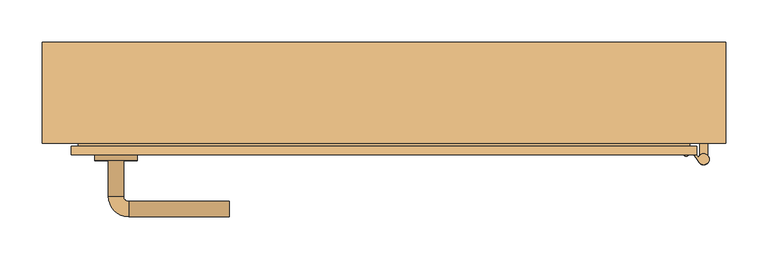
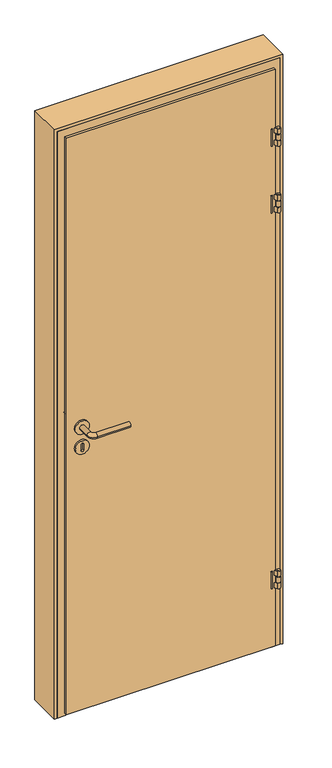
"""IFC4 building model written with IfcOpenShell, lengths in millimetres: door geometry, JW_Interior_Door_Steady_411_Single_1.0 : 790 x 1890 mm - M8 x M19."""

from ifc_helpers import new_model, si_unit, point, frame, frame_2d, origin, place, context, project, spatial, polyline, circle_curve, ellipse_curve, trimmed, segment, composite_curve, outline, extrude, faceted_brep, source, transform, mapped, element, save
from ifc_brep_helpers import plane_surface, cylinder_surface, revolved_surface, advanced_brep


def door_6d154dac(model_context):
    return source(origin(), model_context, "Body", "SolidModel", [
        advanced_brep(
        [(372.6872752, -76.5978645, 1955.5), (367.824598, -69.6532419, 1955.5), (363.3666753, -68.8671898, 1955.5), (358.4507117, -72.3093846, 1955.5), (357.3369261, -72.1129941, 1955.5), (351.5497082, -64.705693, 1955.5), (348.4714009, -60.7656393, 1955.5), (346.501374, -62.304793, 1955.5), (349.5796813, -66.2448467, 1955.5), (355.3284264, -73.6029049, 1955.5), (359.8029699, -74.3918876, 1955.5), (364.7031605, -70.9607372, 1955.5), (365.8301085, -71.1594486, 1955.5), (373.5783674, -82.2251091, 1955.5), (372.6872752, -76.5978645, 1890.5), (373.5783674, -82.2251091, 1890.5), (365.8301085, -71.1594486, 1890.5), (364.7031605, -70.9607372, 1890.5), (359.8029699, -74.3918876, 1890.5), (355.3284264, -73.6029049, 1890.5), (349.5796813, -66.2448467, 1890.5), (346.501374, -62.304793, 1890.5), (348.4714009, -60.7656393, 1890.5), (351.5497082, -64.705693, 1890.5), (357.3369261, -72.1129941, 1890.5), (358.4507117, -72.3093846, 1890.5), (363.3666753, -68.8671898, 1890.5), (367.824598, -69.6532419, 1890.5), (373.5783674, -82.2251091, 1936.0), (372.6872752, -76.5978645, 1936.0), (372.6872752, -76.5978645, 1910.0), (373.5783674, -82.2251091, 1910.0), (367.824598, -69.6532419, 1936.0), (367.824598, -69.6532419, 1910.0), (363.3666753, -68.8671898, 1936.0), (363.3666753, -68.8671898, 1910.0), (361.0722318, -70.4737764, 1936.0), (361.0722318, -70.4737764, 1910.0), (342.3147861, -52.8855317, 1900.5), (342.3147861, -52.8855317, 1945.5), (340.3447592, -54.4246854, 1900.5), (340.3447592, -54.4246854, 1945.5), (364.7031605, -70.9607372, 1910.0), (362.4955675, -72.5065104, 1910.0), (362.4955675, -72.5065104, 1936.0), (364.7031605, -70.9607372, 1936.0), (365.8301085, -71.1594486, 1936.0), (365.8301085, -71.1594486, 1910.0)],
        [
            (0, 1),
            (1, 2, circle_curve(frame((365.2026106, -71.4891772, 1955.5), z_axis=(0.0, 0.0, 1.0), x_axis=(-0.5735764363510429, 0.819152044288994, 0.0)), 3.2008556)),
            (2, 3),
            (3, 4, circle_curve(frame((357.9920141, -71.6542966, 1955.5), z_axis=(0.0, 0.0, -1.0), x_axis=(-0.5735764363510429, 0.819152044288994, 0.0)), 0.7997148)),
            (4, 5),
            (5, 6),
            (6, 7),
            (7, 8),
            (8, 9),
            (9, 10, circle_curve(frame((357.9601895, -71.7601245, 1955.5), z_axis=(0.0, 0.0, 1.0), x_axis=(-0.5735764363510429, 0.819152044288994, 0.0)), 3.2127895)),
            (10, 11),
            (11, 12, circle_curve(frame((365.1672788, -71.6235669, 1955.5), z_axis=(0.0, 0.0, -1.0), x_axis=(-0.5735764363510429, 0.819152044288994, 0.0)), 0.8091657)),
            (12, 13),
            (13, 0, circle_curve(frame((378.9011559, -78.4980525, 1955.5), z_axis=(0.0, 0.0, 1.0), x_axis=(-0.5735764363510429, 0.819152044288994, 0.0)), 6.4979249)),
            (14, 15, circle_curve(frame((378.9011559, -78.4980525, 1890.5), z_axis=(0.0, 0.0, -1.0), x_axis=(-0.5735764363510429, 0.819152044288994, 0.0)), 6.4979249)),
            (15, 16),
            (16, 17, circle_curve(frame((365.1672788, -71.6235669, 1890.5), z_axis=(0.0, 0.0, 1.0), x_axis=(-0.5735764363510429, 0.819152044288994, 0.0)), 0.8091657)),
            (17, 18),
            (18, 19, circle_curve(frame((357.9601895, -71.7601245, 1890.5), z_axis=(0.0, 0.0, -1.0), x_axis=(-0.5735764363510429, 0.819152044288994, 0.0)), 3.2127895)),
            (19, 20),
            (20, 21),
            (21, 22),
            (22, 23),
            (23, 24),
            (24, 25, circle_curve(frame((357.9920141, -71.6542966, 1890.5), z_axis=(0.0, 0.0, 1.0), x_axis=(-0.5735764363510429, 0.819152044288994, 0.0)), 0.7997148)),
            (25, 26),
            (26, 27, circle_curve(frame((365.2026106, -71.4891772, 1890.5), z_axis=(0.0, 0.0, -1.0), x_axis=(-0.5735764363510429, 0.819152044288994, 0.0)), 3.2008556)),
            (27, 14),
            (13, 28),
            (28, 29, circle_curve(frame((378.9011559, -78.4980525, 1936.0), z_axis=(0.0, 0.0, 1.0), x_axis=(-0.5735764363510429, 0.819152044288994, 0.0)), 6.4979249)),
            (29, 0),
            (14, 30),
            (30, 31, circle_curve(frame((378.9011559, -78.4980525, 1910.0), z_axis=(0.0, 0.0, -1.0), x_axis=(-0.5735764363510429, 0.819152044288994, 0.0)), 6.4979249)),
            (31, 15),
            (29, 32),
            (32, 1),
            (27, 33),
            (33, 30),
            (32, 34, circle_curve(frame((365.2026106, -71.4891772, 1936.0), z_axis=(0.0, 0.0, 1.0), x_axis=(-0.5735764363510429, 0.819152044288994, 0.0)), 3.2008556)),
            (34, 2),
            (26, 35),
            (35, 33, circle_curve(frame((365.2026106, -71.4891772, 1910.0), z_axis=(0.0, 0.0, -1.0), x_axis=(-0.5735764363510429, 0.819152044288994, 0.0)), 3.2008556)),
            (34, 36),
            (36, 37),
            (37, 35),
            (25, 3),
            (24, 4),
            (22, 38, circle_curve(frame((348.4714009, -60.7656393, 1900.5), z_axis=(0.7880107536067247, 0.6156614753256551, 0.0), x_axis=(0.615661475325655, -0.7880107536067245, 0.0)), 10.0)),
            (38, 39),
            (39, 6, circle_curve(frame((348.4714009, -60.7656393, 1945.5), z_axis=(0.7880107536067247, 0.6156614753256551, 0.0), x_axis=(0.615661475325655, -0.7880107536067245, 0.0)), 10.0)),
            (38, 40),
            (40, 41),
            (41, 39),
            (19, 9),
            (7, 41, circle_curve(frame((346.501374, -62.304793, 1945.5), z_axis=(-0.7880107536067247, -0.6156614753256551, 0.0), x_axis=(0.615661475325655, -0.7880107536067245, 0.0)), 10.0)),
            (40, 21, circle_curve(frame((346.501374, -62.304793, 1900.5), z_axis=(-0.7880107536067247, -0.6156614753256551, 0.0), x_axis=(0.615661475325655, -0.7880107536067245, 0.0)), 10.0)),
            (18, 10),
            (17, 42),
            (42, 43),
            (43, 44),
            (44, 45),
            (45, 11),
            (45, 46, circle_curve(frame((365.1672788, -71.6235669, 1936.0), z_axis=(0.0, 0.0, -1.0), x_axis=(-0.5735764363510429, 0.819152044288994, 0.0)), 0.8091657)),
            (46, 12),
            (16, 47),
            (47, 42, circle_curve(frame((365.1672788, -71.6235669, 1910.0), z_axis=(0.0, 0.0, 1.0), x_axis=(-0.5735764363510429, 0.819152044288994, 0.0)), 0.8091657)),
            (46, 28),
            (31, 47),
            (44, 36),
            (37, 43),
        ],
        [
            plane_surface(frame((367.824598, -69.6532419, 1955.5), z_axis=(0.0, 0.0, 1.0000000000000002), x_axis=(-0.5735764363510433, 0.8191520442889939, 0.0))),
            plane_surface(frame((367.824598, -69.6532419, 1890.5), z_axis=(0.0, 0.0, -1.0000000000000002), x_axis=(0.5735764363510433, -0.8191520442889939, 0.0))),
            cylinder_surface(frame((378.9011559, -78.4980525, 1890.5), z_axis=(0.0, 0.0, 1.0), x_axis=(-0.5735764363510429, 0.819152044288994, 0.0)), 6.4979249),
            plane_surface(frame((372.6872752, -76.5978645, 1955.5), z_axis=(0.8191520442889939, 0.5735764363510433, 0.0), x_axis=(0.0, 0.0, -1.0))),
            cylinder_surface(frame((365.2026106, -71.4891772, 1890.5), z_axis=(0.0, 0.0, 1.0), x_axis=(-0.5735764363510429, 0.819152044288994, 0.0)), 3.2008556),
            plane_surface(frame((363.3666753, -68.8671898, 1955.5), z_axis=(-0.573576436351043, 0.819152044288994, 0.0), x_axis=(0.0, 0.0, -1.0))),
            revolved_surface(polyline([(357.5333165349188, -70.99920858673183, 1890.5), (357.5333165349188, -70.99920858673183, 1955.5)]), (357.9920141, -71.6542966, 1890.5), (0.0, 0.0, -1.0)),
            plane_surface(frame((357.3369261, -72.1129941, 1955.5), z_axis=(0.7880107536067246, 0.615661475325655, 0.0), x_axis=(0.0, 0.0, -1.0))),
            plane_surface(frame((342.3147861, -52.8855317, 1955.5), z_axis=(-0.6156614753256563, 0.7880107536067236, 0.0), x_axis=(0.0, 0.0, -1.0))),
            plane_surface(frame((340.3447592, -54.4246854, 1955.5), z_axis=(-0.7880107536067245, -0.6156614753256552, 0.0), x_axis=(0.0, 0.0, -1.0))),
            cylinder_surface(frame((357.9601895, -71.7601245, 1890.5), z_axis=(0.0, 0.0, 1.0), x_axis=(-0.5735764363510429, 0.819152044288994, 0.0)), 3.2127895),
            plane_surface(frame((359.8029699, -74.3918876, 1955.5), z_axis=(0.5735764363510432, -0.8191520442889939, 0.0), x_axis=(0.0, 0.0, -1.0))),
            revolved_surface(polyline([(364.70316042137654, -70.96073716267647, 1936.0), (364.70316042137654, -70.96073716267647, 1955.5)]), (365.1672788, -71.6235669, 1890.5), (0.0, 0.0, -1.0)),
            revolved_surface(polyline([(364.70316042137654, -70.96073716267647, 1890.5), (364.70316042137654, -70.96073716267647, 1910.0)]), (365.1672788, -71.6235669, 1890.5), (0.0, 0.0, -1.0)),
            plane_surface(frame((365.8301085, -71.1594486, 1955.5), z_axis=(-0.819152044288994, -0.573576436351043, 0.0), x_axis=(0.0, 0.0, -1.0))),
            plane_surface(frame((390.8814134, -82.3872146, 1936.0), z_axis=(0.0, 0.0, -1.0000000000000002), x_axis=(0.8191520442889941, 0.5735764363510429, 0.0))),
            plane_surface(frame((390.8814134, -82.3872146, 1910.0), z_axis=(0.0, 0.0, 1.0000000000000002), x_axis=(-0.8191520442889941, -0.5735764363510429, 0.0))),
            plane_surface(frame((359.2693443, -67.8989861, 1936.0), z_axis=(0.819152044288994, 0.573576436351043, 0.0), x_axis=(0.0, 0.0, -1.0))),
            cylinder_surface(frame((352.4114546, -57.6873319, 1900.5), z_axis=(0.7880107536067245, 0.615661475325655, 0.0), x_axis=(0.615661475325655, -0.7880107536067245, 0.0)), 10.0),
            cylinder_surface(frame((352.4114546, -57.6873319, 1945.5), z_axis=(0.7880107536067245, 0.615661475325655, 0.0), x_axis=(0.615661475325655, -0.7880107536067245, 0.0)), 10.0),
        ],
        [
            (0, [[1, 2, 3, 4, 5, 6, 7, 8, 9, 10, 11, 12, 13, 14]]),
            (1, [[15, 16, 17, 18, 19, 20, 21, 22, 23, 24, 25, 26, 27, 28]]),
            (2, [[-14, 29, 30, 31]]),
            (2, [[-15, 32, 33, 34]]),
            (3, [[-1, -31, 35, 36]]),
            (3, [[-28, 37, 38, -32]]),
            (4, [[-2, -36, 39, 40]]),
            (4, [[-27, 41, 42, -37]]),
            (5, [[-3, -40, 43, 44, 45, -41, -26, 46]]),
            (6, [[-4, -46, -25, 47]]),
            (7, [[-47, -24, -23, 48, 49, 50, -6, -5]]),
            (8, [[-49, 51, 52, 53]]),
            (9, [[54, -9, -8, 55, -52, 56, -21, -20]]),
            (10, [[-10, -54, -19, 57]]),
            (11, [[-11, -57, -18, 58, 59, 60, 61, 62]]),
            (12, [[-12, -62, 63, 64]]),
            (13, [[-17, 65, 66, -58]]),
            (14, [[-13, -64, 67, -29]]),
            (14, [[-16, -34, 68, -65]]),
            (15, [[69, -43, -39, -35, -30, -67, -63, -61]]),
            (16, [[70, -59, -66, -68, -33, -38, -42, -45]]),
            (17, [[-69, -60, -70, -44]]),
            (18, [[-22, -56, -51, -48]]),
            (19, [[-7, -50, -53, -55]]),
        ],
    ),
        extrude(outline(composite_curve([segment(trimmed(circle_curve(frame_2d((378.9, -78.5)), 3.75), [point((375.15, -78.5))], [point((382.65, -78.5))], False, "CARTESIAN"), True, "CONTINUOUS"), segment(trimmed(circle_curve(frame_2d((378.9, -78.5)), 3.75), [point((382.65, -78.5))], [point((375.15, -78.5))], False, "CARTESIAN"), True, "CONTINUOUS")], self_intersect=False)), frame((0.0, 0.0, 1890.5), z_axis=(0.0, 0.0, 1.0), x_axis=(1.0, 0.0, 0.0)), (0.0, 0.0, 1.0), 65.0),
        extrude(outline(composite_curve([segment(trimmed(circle_curve(frame_2d((378.9, -78.5)), 6.5), [point((383.9, -74.3466881))], [point((373.9, -74.3466881))], False, "CARTESIAN"), True, "CONTINUOUS"), segment(polyline([(373.9, -74.3466881), (373.9, -60.0), (383.9, -60.0), (383.9, -74.3466881)]), True, "CONTINUOUS")], self_intersect=False)), frame((0.0, 0.0, 1913.0), z_axis=(0.0, 0.0, 1.0), x_axis=(1.0, 0.0, 0.0)), (0.0, 0.0, 1.0), 20.0),
        advanced_brep(
        [(372.6872752, -76.5978645, 1705.5), (367.824598, -69.6532419, 1705.5), (363.3666753, -68.8671898, 1705.5), (358.4507117, -72.3093846, 1705.5), (357.3369261, -72.1129941, 1705.5), (351.5497082, -64.705693, 1705.5), (348.4714009, -60.7656393, 1705.5), (346.501374, -62.304793, 1705.5), (349.5796813, -66.2448467, 1705.5), (355.3284264, -73.6029049, 1705.5), (359.8029699, -74.3918876, 1705.5), (364.7031605, -70.9607372, 1705.5), (365.8301085, -71.1594486, 1705.5), (373.5783674, -82.2251091, 1705.5), (372.6872752, -76.5978645, 1640.5), (373.5783674, -82.2251091, 1640.5), (365.8301085, -71.1594486, 1640.5), (364.7031605, -70.9607372, 1640.5), (359.8029699, -74.3918876, 1640.5), (355.3284264, -73.6029049, 1640.5), (349.5796813, -66.2448467, 1640.5), (346.501374, -62.304793, 1640.5), (348.4714009, -60.7656393, 1640.5), (351.5497082, -64.705693, 1640.5), (357.3369261, -72.1129941, 1640.5), (358.4507117, -72.3093846, 1640.5), (363.3666753, -68.8671898, 1640.5), (367.824598, -69.6532419, 1640.5), (373.5783674, -82.2251091, 1686.0), (372.6872752, -76.5978645, 1686.0), (372.6872752, -76.5978645, 1660.0), (373.5783674, -82.2251091, 1660.0), (367.824598, -69.6532419, 1686.0), (367.824598, -69.6532419, 1660.0), (363.3666753, -68.8671898, 1686.0), (363.3666753, -68.8671898, 1660.0), (361.0722318, -70.4737764, 1686.0), (361.0722318, -70.4737764, 1660.0), (342.3147861, -52.8855317, 1650.5), (342.3147861, -52.8855317, 1695.5), (340.3447592, -54.4246854, 1650.5), (340.3447592, -54.4246854, 1695.5), (364.7031605, -70.9607372, 1660.0), (362.4955675, -72.5065104, 1660.0), (362.4955675, -72.5065104, 1686.0), (364.7031605, -70.9607372, 1686.0), (365.8301085, -71.1594486, 1686.0), (365.8301085, -71.1594486, 1660.0)],
        [
            (0, 1),
            (1, 2, circle_curve(frame((365.2026106, -71.4891772, 1705.5), z_axis=(0.0, 0.0, 1.0), x_axis=(-0.5735764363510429, 0.819152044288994, 0.0)), 3.2008556)),
            (2, 3),
            (3, 4, circle_curve(frame((357.9920141, -71.6542966, 1705.5), z_axis=(0.0, 0.0, -1.0), x_axis=(-0.5735764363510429, 0.819152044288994, 0.0)), 0.7997148)),
            (4, 5),
            (5, 6),
            (6, 7),
            (7, 8),
            (8, 9),
            (9, 10, circle_curve(frame((357.9601895, -71.7601245, 1705.5), z_axis=(0.0, 0.0, 1.0), x_axis=(-0.5735764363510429, 0.819152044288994, 0.0)), 3.2127895)),
            (10, 11),
            (11, 12, circle_curve(frame((365.1672788, -71.6235669, 1705.5), z_axis=(0.0, 0.0, -1.0), x_axis=(-0.5735764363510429, 0.819152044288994, 0.0)), 0.8091657)),
            (12, 13),
            (13, 0, circle_curve(frame((378.9011559, -78.4980525, 1705.5), z_axis=(0.0, 0.0, 1.0), x_axis=(-0.5735764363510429, 0.819152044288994, 0.0)), 6.4979249)),
            (14, 15, circle_curve(frame((378.9011559, -78.4980525, 1640.5), z_axis=(0.0, 0.0, -1.0), x_axis=(-0.5735764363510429, 0.819152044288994, 0.0)), 6.4979249)),
            (15, 16),
            (16, 17, circle_curve(frame((365.1672788, -71.6235669, 1640.5), z_axis=(0.0, 0.0, 1.0), x_axis=(-0.5735764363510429, 0.819152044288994, 0.0)), 0.8091657)),
            (17, 18),
            (18, 19, circle_curve(frame((357.9601895, -71.7601245, 1640.5), z_axis=(0.0, 0.0, -1.0), x_axis=(-0.5735764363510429, 0.819152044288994, 0.0)), 3.2127895)),
            (19, 20),
            (20, 21),
            (21, 22),
            (22, 23),
            (23, 24),
            (24, 25, circle_curve(frame((357.9920141, -71.6542966, 1640.5), z_axis=(0.0, 0.0, 1.0), x_axis=(-0.5735764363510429, 0.819152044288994, 0.0)), 0.7997148)),
            (25, 26),
            (26, 27, circle_curve(frame((365.2026106, -71.4891772, 1640.5), z_axis=(0.0, 0.0, -1.0), x_axis=(-0.5735764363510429, 0.819152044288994, 0.0)), 3.2008556)),
            (27, 14),
            (13, 28),
            (28, 29, circle_curve(frame((378.9011559, -78.4980525, 1686.0), z_axis=(0.0, 0.0, 1.0), x_axis=(-0.5735764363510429, 0.819152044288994, 0.0)), 6.4979249)),
            (29, 0),
            (14, 30),
            (30, 31, circle_curve(frame((378.9011559, -78.4980525, 1660.0), z_axis=(0.0, 0.0, -1.0), x_axis=(-0.5735764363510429, 0.819152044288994, 0.0)), 6.4979249)),
            (31, 15),
            (29, 32),
            (32, 1),
            (27, 33),
            (33, 30),
            (32, 34, circle_curve(frame((365.2026106, -71.4891772, 1686.0), z_axis=(0.0, 0.0, 1.0), x_axis=(-0.5735764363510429, 0.819152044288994, 0.0)), 3.2008556)),
            (34, 2),
            (26, 35),
            (35, 33, circle_curve(frame((365.2026106, -71.4891772, 1660.0), z_axis=(0.0, 0.0, -1.0), x_axis=(-0.5735764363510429, 0.819152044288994, 0.0)), 3.2008556)),
            (34, 36),
            (36, 37),
            (37, 35),
            (25, 3),
            (24, 4),
            (22, 38, circle_curve(frame((348.4714009, -60.7656393, 1650.5), z_axis=(0.7880107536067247, 0.6156614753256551, 0.0), x_axis=(0.615661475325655, -0.7880107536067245, 0.0)), 10.0)),
            (38, 39),
            (39, 6, circle_curve(frame((348.4714009, -60.7656393, 1695.5), z_axis=(0.7880107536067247, 0.6156614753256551, 0.0), x_axis=(0.615661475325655, -0.7880107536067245, 0.0)), 10.0)),
            (38, 40),
            (40, 41),
            (41, 39),
            (19, 9),
            (7, 41, circle_curve(frame((346.501374, -62.304793, 1695.5), z_axis=(-0.7880107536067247, -0.6156614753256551, 0.0), x_axis=(0.615661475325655, -0.7880107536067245, 0.0)), 10.0)),
            (40, 21, circle_curve(frame((346.501374, -62.304793, 1650.5), z_axis=(-0.7880107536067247, -0.6156614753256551, 0.0), x_axis=(0.615661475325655, -0.7880107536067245, 0.0)), 10.0)),
            (18, 10),
            (17, 42),
            (42, 43),
            (43, 44),
            (44, 45),
            (45, 11),
            (45, 46, circle_curve(frame((365.1672788, -71.6235669, 1686.0), z_axis=(0.0, 0.0, -1.0), x_axis=(-0.5735764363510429, 0.819152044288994, 0.0)), 0.8091657)),
            (46, 12),
            (16, 47),
            (47, 42, circle_curve(frame((365.1672788, -71.6235669, 1660.0), z_axis=(0.0, 0.0, 1.0), x_axis=(-0.5735764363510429, 0.819152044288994, 0.0)), 0.8091657)),
            (46, 28),
            (31, 47),
            (44, 36),
            (37, 43),
        ],
        [
            plane_surface(frame((367.824598, -69.6532419, 1705.5), z_axis=(0.0, 0.0, 1.0000000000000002), x_axis=(-0.5735764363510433, 0.8191520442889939, 0.0))),
            plane_surface(frame((367.824598, -69.6532419, 1640.5), z_axis=(0.0, 0.0, -1.0000000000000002), x_axis=(0.5735764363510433, -0.8191520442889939, 0.0))),
            cylinder_surface(frame((378.9011559, -78.4980525, 1640.5), z_axis=(0.0, 0.0, 1.0), x_axis=(-0.5735764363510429, 0.819152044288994, 0.0)), 6.4979249),
            plane_surface(frame((372.6872752, -76.5978645, 1705.5), z_axis=(0.8191520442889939, 0.5735764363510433, 0.0), x_axis=(0.0, 0.0, -1.0))),
            cylinder_surface(frame((365.2026106, -71.4891772, 1640.5), z_axis=(0.0, 0.0, 1.0), x_axis=(-0.5735764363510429, 0.819152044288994, 0.0)), 3.2008556),
            plane_surface(frame((363.3666753, -68.8671898, 1705.5), z_axis=(-0.573576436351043, 0.819152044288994, 0.0), x_axis=(0.0, 0.0, -1.0))),
            revolved_surface(polyline([(357.5333165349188, -70.99920858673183, 1640.5), (357.5333165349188, -70.99920858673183, 1705.5)]), (357.9920141, -71.6542966, 1640.5), (0.0, 0.0, -1.0)),
            plane_surface(frame((357.3369261, -72.1129941, 1705.5), z_axis=(0.7880107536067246, 0.615661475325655, 0.0), x_axis=(0.0, 0.0, -1.0))),
            plane_surface(frame((342.3147861, -52.8855317, 1705.5), z_axis=(-0.6156614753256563, 0.7880107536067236, 0.0), x_axis=(0.0, 0.0, -1.0))),
            plane_surface(frame((340.3447592, -54.4246854, 1705.5), z_axis=(-0.7880107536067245, -0.6156614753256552, 0.0), x_axis=(0.0, 0.0, -1.0))),
            cylinder_surface(frame((357.9601895, -71.7601245, 1640.5), z_axis=(0.0, 0.0, 1.0), x_axis=(-0.5735764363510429, 0.819152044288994, 0.0)), 3.2127895),
            plane_surface(frame((359.8029699, -74.3918876, 1705.5), z_axis=(0.5735764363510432, -0.8191520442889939, 0.0), x_axis=(0.0, 0.0, -1.0))),
            revolved_surface(polyline([(364.70316042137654, -70.96073716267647, 1686.0), (364.70316042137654, -70.96073716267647, 1705.5)]), (365.1672788, -71.6235669, 1640.5), (0.0, 0.0, -1.0)),
            revolved_surface(polyline([(364.70316042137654, -70.96073716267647, 1640.5), (364.70316042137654, -70.96073716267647, 1660.0)]), (365.1672788, -71.6235669, 1640.5), (0.0, 0.0, -1.0)),
            plane_surface(frame((365.8301085, -71.1594486, 1705.5), z_axis=(-0.819152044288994, -0.573576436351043, 0.0), x_axis=(0.0, 0.0, -1.0))),
            plane_surface(frame((390.8814134, -82.3872146, 1686.0), z_axis=(0.0, 0.0, -1.0000000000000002), x_axis=(0.8191520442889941, 0.5735764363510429, 0.0))),
            plane_surface(frame((390.8814134, -82.3872146, 1660.0), z_axis=(0.0, 0.0, 1.0000000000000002), x_axis=(-0.8191520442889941, -0.5735764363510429, 0.0))),
            plane_surface(frame((359.2693443, -67.8989861, 1686.0), z_axis=(0.819152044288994, 0.573576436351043, 0.0), x_axis=(0.0, 0.0, -1.0))),
            cylinder_surface(frame((352.4114546, -57.6873319, 1650.5), z_axis=(0.7880107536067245, 0.615661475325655, 0.0), x_axis=(0.615661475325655, -0.7880107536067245, 0.0)), 10.0),
            cylinder_surface(frame((352.4114546, -57.6873319, 1695.5), z_axis=(0.7880107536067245, 0.615661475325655, 0.0), x_axis=(0.615661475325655, -0.7880107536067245, 0.0)), 10.0),
        ],
        [
            (0, [[1, 2, 3, 4, 5, 6, 7, 8, 9, 10, 11, 12, 13, 14]]),
            (1, [[15, 16, 17, 18, 19, 20, 21, 22, 23, 24, 25, 26, 27, 28]]),
            (2, [[-14, 29, 30, 31]]),
            (2, [[-15, 32, 33, 34]]),
            (3, [[-1, -31, 35, 36]]),
            (3, [[-28, 37, 38, -32]]),
            (4, [[-2, -36, 39, 40]]),
            (4, [[-27, 41, 42, -37]]),
            (5, [[-3, -40, 43, 44, 45, -41, -26, 46]]),
            (6, [[-4, -46, -25, 47]]),
            (7, [[-47, -24, -23, 48, 49, 50, -6, -5]]),
            (8, [[-49, 51, 52, 53]]),
            (9, [[54, -9, -8, 55, -52, 56, -21, -20]]),
            (10, [[-10, -54, -19, 57]]),
            (11, [[-11, -57, -18, 58, 59, 60, 61, 62]]),
            (12, [[-12, -62, 63, 64]]),
            (13, [[-17, 65, 66, -58]]),
            (14, [[-13, -64, 67, -29]]),
            (14, [[-16, -34, 68, -65]]),
            (15, [[69, -43, -39, -35, -30, -67, -63, -61]]),
            (16, [[70, -59, -66, -68, -33, -38, -42, -45]]),
            (17, [[-69, -60, -70, -44]]),
            (18, [[-22, -56, -51, -48]]),
            (19, [[-7, -50, -53, -55]]),
        ],
    ),
        extrude(outline(composite_curve([segment(trimmed(circle_curve(frame_2d((378.9, -78.5)), 3.75), [point((375.15, -78.5))], [point((382.65, -78.5))], False, "CARTESIAN"), True, "CONTINUOUS"), segment(trimmed(circle_curve(frame_2d((378.9, -78.5)), 3.75), [point((382.65, -78.5))], [point((375.15, -78.5))], False, "CARTESIAN"), True, "CONTINUOUS")], self_intersect=False)), frame((0.0, 0.0, 1640.5), z_axis=(0.0, 0.0, 1.0), x_axis=(1.0, 0.0, 0.0)), (0.0, 0.0, 1.0), 65.0),
        extrude(outline(composite_curve([segment(trimmed(circle_curve(frame_2d((378.9, -78.5)), 6.5), [point((383.9, -74.3466881))], [point((373.9, -74.3466881))], False, "CARTESIAN"), True, "CONTINUOUS"), segment(polyline([(373.9, -74.3466881), (373.9, -60.0), (383.9, -60.0), (383.9, -74.3466881)]), True, "CONTINUOUS")], self_intersect=False)), frame((0.0, 0.0, 1663.0), z_axis=(0.0, 0.0, 1.0), x_axis=(1.0, 0.0, 0.0)), (0.0, 0.0, 1.0), 20.0),
        advanced_brep(
        [(372.6872752, -76.5978645, 295.5), (367.824598, -69.6532419, 295.5), (363.3666753, -68.8671898, 295.5), (358.4507117, -72.3093846, 295.5), (357.3369261, -72.1129941, 295.5), (351.5497082, -64.705693, 295.5), (348.4714009, -60.7656393, 295.5), (346.501374, -62.304793, 295.5), (349.5796813, -66.2448467, 295.5), (355.3284264, -73.6029049, 295.5), (359.8029699, -74.3918876, 295.5), (364.7031605, -70.9607372, 295.5), (365.8301085, -71.1594486, 295.5), (373.5783674, -82.2251091, 295.5), (372.6872752, -76.5978645, 230.5), (373.5783674, -82.2251091, 230.5), (365.8301085, -71.1594486, 230.5), (364.7031605, -70.9607372, 230.5), (359.8029699, -74.3918876, 230.5), (355.3284264, -73.6029049, 230.5), (349.5796813, -66.2448467, 230.5), (346.501374, -62.304793, 230.5), (348.4714009, -60.7656393, 230.5), (351.5497082, -64.705693, 230.5), (357.3369261, -72.1129941, 230.5), (358.4507117, -72.3093846, 230.5), (363.3666753, -68.8671898, 230.5), (367.824598, -69.6532419, 230.5), (373.5783674, -82.2251091, 276.0), (372.6872752, -76.5978645, 276.0), (372.6872752, -76.5978645, 250.0), (373.5783674, -82.2251091, 250.0), (367.824598, -69.6532419, 276.0), (367.824598, -69.6532419, 250.0), (363.3666753, -68.8671898, 276.0), (363.3666753, -68.8671898, 250.0), (361.0722318, -70.4737764, 276.0), (361.0722318, -70.4737764, 250.0), (342.3147861, -52.8855317, 240.5), (342.3147861, -52.8855317, 285.5), (340.3447592, -54.4246854, 240.5), (340.3447592, -54.4246854, 285.5), (364.7031605, -70.9607372, 250.0), (362.4955675, -72.5065104, 250.0), (362.4955675, -72.5065104, 276.0), (364.7031605, -70.9607372, 276.0), (365.8301085, -71.1594486, 276.0), (365.8301085, -71.1594486, 250.0)],
        [
            (0, 1),
            (1, 2, circle_curve(frame((365.2026106, -71.4891772, 295.5), z_axis=(0.0, 0.0, 1.0), x_axis=(-0.5735764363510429, 0.819152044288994, 0.0)), 3.2008556)),
            (2, 3),
            (3, 4, circle_curve(frame((357.9920141, -71.6542966, 295.5), z_axis=(0.0, 0.0, -1.0), x_axis=(-0.5735764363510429, 0.819152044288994, 0.0)), 0.7997148)),
            (4, 5),
            (5, 6),
            (6, 7),
            (7, 8),
            (8, 9),
            (9, 10, circle_curve(frame((357.9601895, -71.7601245, 295.5), z_axis=(0.0, 0.0, 1.0), x_axis=(-0.5735764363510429, 0.819152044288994, 0.0)), 3.2127895)),
            (10, 11),
            (11, 12, circle_curve(frame((365.1672788, -71.6235669, 295.5), z_axis=(0.0, 0.0, -1.0), x_axis=(-0.5735764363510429, 0.819152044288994, 0.0)), 0.8091657)),
            (12, 13),
            (13, 0, circle_curve(frame((378.9011559, -78.4980525, 295.5), z_axis=(0.0, 0.0, 1.0), x_axis=(-0.5735764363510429, 0.819152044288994, 0.0)), 6.4979249)),
            (14, 15, circle_curve(frame((378.9011559, -78.4980525, 230.5), z_axis=(0.0, 0.0, -1.0), x_axis=(-0.5735764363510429, 0.819152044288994, 0.0)), 6.4979249)),
            (15, 16),
            (16, 17, circle_curve(frame((365.1672788, -71.6235669, 230.5), z_axis=(0.0, 0.0, 1.0), x_axis=(-0.5735764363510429, 0.819152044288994, 0.0)), 0.8091657)),
            (17, 18),
            (18, 19, circle_curve(frame((357.9601895, -71.7601245, 230.5), z_axis=(0.0, 0.0, -1.0), x_axis=(-0.5735764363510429, 0.819152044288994, 0.0)), 3.2127895)),
            (19, 20),
            (20, 21),
            (21, 22),
            (22, 23),
            (23, 24),
            (24, 25, circle_curve(frame((357.9920141, -71.6542966, 230.5), z_axis=(0.0, 0.0, 1.0), x_axis=(-0.5735764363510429, 0.819152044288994, 0.0)), 0.7997148)),
            (25, 26),
            (26, 27, circle_curve(frame((365.2026106, -71.4891772, 230.5), z_axis=(0.0, 0.0, -1.0), x_axis=(-0.5735764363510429, 0.819152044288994, 0.0)), 3.2008556)),
            (27, 14),
            (13, 28),
            (28, 29, circle_curve(frame((378.9011559, -78.4980525, 276.0), z_axis=(0.0, 0.0, 1.0), x_axis=(-0.5735764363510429, 0.819152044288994, 0.0)), 6.4979249)),
            (29, 0),
            (14, 30),
            (30, 31, circle_curve(frame((378.9011559, -78.4980525, 250.0), z_axis=(0.0, 0.0, -1.0), x_axis=(-0.5735764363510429, 0.819152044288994, 0.0)), 6.4979249)),
            (31, 15),
            (29, 32),
            (32, 1),
            (27, 33),
            (33, 30),
            (32, 34, circle_curve(frame((365.2026106, -71.4891772, 276.0), z_axis=(0.0, 0.0, 1.0), x_axis=(-0.5735764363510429, 0.819152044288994, 0.0)), 3.2008556)),
            (34, 2),
            (26, 35),
            (35, 33, circle_curve(frame((365.2026106, -71.4891772, 250.0), z_axis=(0.0, 0.0, -1.0), x_axis=(-0.5735764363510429, 0.819152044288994, 0.0)), 3.2008556)),
            (34, 36),
            (36, 37),
            (37, 35),
            (25, 3),
            (24, 4),
            (22, 38, circle_curve(frame((348.4714009, -60.7656393, 240.5), z_axis=(0.7880107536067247, 0.6156614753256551, 0.0), x_axis=(0.615661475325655, -0.7880107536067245, 0.0)), 10.0)),
            (38, 39),
            (39, 6, circle_curve(frame((348.4714009, -60.7656393, 285.5), z_axis=(0.7880107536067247, 0.6156614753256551, 0.0), x_axis=(0.615661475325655, -0.7880107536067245, 0.0)), 10.0)),
            (38, 40),
            (40, 41),
            (41, 39),
            (19, 9),
            (7, 41, circle_curve(frame((346.501374, -62.304793, 285.5), z_axis=(-0.7880107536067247, -0.6156614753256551, 0.0), x_axis=(0.615661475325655, -0.7880107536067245, 0.0)), 10.0)),
            (40, 21, circle_curve(frame((346.501374, -62.304793, 240.5), z_axis=(-0.7880107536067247, -0.6156614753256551, 0.0), x_axis=(0.615661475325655, -0.7880107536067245, 0.0)), 10.0)),
            (18, 10),
            (17, 42),
            (42, 43),
            (43, 44),
            (44, 45),
            (45, 11),
            (45, 46, circle_curve(frame((365.1672788, -71.6235669, 276.0), z_axis=(0.0, 0.0, -1.0), x_axis=(-0.5735764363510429, 0.819152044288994, 0.0)), 0.8091657)),
            (46, 12),
            (16, 47),
            (47, 42, circle_curve(frame((365.1672788, -71.6235669, 250.0), z_axis=(0.0, 0.0, 1.0), x_axis=(-0.5735764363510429, 0.819152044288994, 0.0)), 0.8091657)),
            (46, 28),
            (31, 47),
            (44, 36),
            (37, 43),
        ],
        [
            plane_surface(frame((367.824598, -69.6532419, 295.5), z_axis=(0.0, 0.0, 1.0000000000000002), x_axis=(-0.5735764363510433, 0.8191520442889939, 0.0))),
            plane_surface(frame((367.824598, -69.6532419, 230.5), z_axis=(0.0, 0.0, -1.0000000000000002), x_axis=(0.5735764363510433, -0.8191520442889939, 0.0))),
            cylinder_surface(frame((378.9011559, -78.4980525, 230.5), z_axis=(0.0, 0.0, 1.0), x_axis=(-0.5735764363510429, 0.819152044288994, 0.0)), 6.4979249),
            plane_surface(frame((372.6872752, -76.5978645, 295.5), z_axis=(0.8191520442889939, 0.5735764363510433, 0.0), x_axis=(0.0, 0.0, -1.0))),
            cylinder_surface(frame((365.2026106, -71.4891772, 230.5), z_axis=(0.0, 0.0, 1.0), x_axis=(-0.5735764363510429, 0.819152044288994, 0.0)), 3.2008556),
            plane_surface(frame((363.3666753, -68.8671898, 295.5), z_axis=(-0.573576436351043, 0.819152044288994, 0.0), x_axis=(0.0, 0.0, -1.0))),
            revolved_surface(polyline([(357.5333165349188, -70.99920858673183, 230.5), (357.5333165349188, -70.99920858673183, 295.5)]), (357.9920141, -71.6542966, 230.5), (0.0, 0.0, -1.0)),
            plane_surface(frame((357.3369261, -72.1129941, 295.5), z_axis=(0.7880107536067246, 0.615661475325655, 0.0), x_axis=(0.0, 0.0, -1.0))),
            plane_surface(frame((342.3147861, -52.8855317, 295.5), z_axis=(-0.6156614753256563, 0.7880107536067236, 0.0), x_axis=(0.0, 0.0, -1.0))),
            plane_surface(frame((340.3447592, -54.4246854, 295.5), z_axis=(-0.7880107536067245, -0.6156614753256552, 0.0), x_axis=(0.0, 0.0, -1.0))),
            cylinder_surface(frame((357.9601895, -71.7601245, 230.5), z_axis=(0.0, 0.0, 1.0), x_axis=(-0.5735764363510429, 0.819152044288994, 0.0)), 3.2127895),
            plane_surface(frame((359.8029699, -74.3918876, 295.5), z_axis=(0.5735764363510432, -0.8191520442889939, 0.0), x_axis=(0.0, 0.0, -1.0))),
            revolved_surface(polyline([(364.70316042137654, -70.96073716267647, 276.0), (364.70316042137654, -70.96073716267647, 295.5)]), (365.1672788, -71.6235669, 230.5), (0.0, 0.0, -1.0)),
            revolved_surface(polyline([(364.70316042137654, -70.96073716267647, 230.5), (364.70316042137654, -70.96073716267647, 250.0)]), (365.1672788, -71.6235669, 230.5), (0.0, 0.0, -1.0)),
            plane_surface(frame((365.8301085, -71.1594486, 295.5), z_axis=(-0.819152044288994, -0.573576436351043, 0.0), x_axis=(0.0, 0.0, -1.0))),
            plane_surface(frame((390.8814134, -82.3872146, 276.0), z_axis=(0.0, 0.0, -1.0000000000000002), x_axis=(0.8191520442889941, 0.5735764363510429, 0.0))),
            plane_surface(frame((390.8814134, -82.3872146, 250.0), z_axis=(0.0, 0.0, 1.0000000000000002), x_axis=(-0.8191520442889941, -0.5735764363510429, 0.0))),
            plane_surface(frame((359.2693443, -67.8989861, 276.0), z_axis=(0.819152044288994, 0.573576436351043, 0.0), x_axis=(0.0, 0.0, -1.0))),
            cylinder_surface(frame((352.4114546, -57.6873319, 240.5), z_axis=(0.7880107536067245, 0.615661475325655, 0.0), x_axis=(0.615661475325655, -0.7880107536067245, 0.0)), 10.0),
            cylinder_surface(frame((352.4114546, -57.6873319, 285.5), z_axis=(0.7880107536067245, 0.615661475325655, 0.0), x_axis=(0.615661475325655, -0.7880107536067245, 0.0)), 10.0),
        ],
        [
            (0, [[1, 2, 3, 4, 5, 6, 7, 8, 9, 10, 11, 12, 13, 14]]),
            (1, [[15, 16, 17, 18, 19, 20, 21, 22, 23, 24, 25, 26, 27, 28]]),
            (2, [[-14, 29, 30, 31]]),
            (2, [[-15, 32, 33, 34]]),
            (3, [[-1, -31, 35, 36]]),
            (3, [[-28, 37, 38, -32]]),
            (4, [[-2, -36, 39, 40]]),
            (4, [[-27, 41, 42, -37]]),
            (5, [[-3, -40, 43, 44, 45, -41, -26, 46]]),
            (6, [[-4, -46, -25, 47]]),
            (7, [[-47, -24, -23, 48, 49, 50, -6, -5]]),
            (8, [[-49, 51, 52, 53]]),
            (9, [[54, -9, -8, 55, -52, 56, -21, -20]]),
            (10, [[-10, -54, -19, 57]]),
            (11, [[-11, -57, -18, 58, 59, 60, 61, 62]]),
            (12, [[-12, -62, 63, 64]]),
            (13, [[-17, 65, 66, -58]]),
            (14, [[-13, -64, 67, -29]]),
            (14, [[-16, -34, 68, -65]]),
            (15, [[69, -43, -39, -35, -30, -67, -63, -61]]),
            (16, [[70, -59, -66, -68, -33, -38, -42, -45]]),
            (17, [[-69, -60, -70, -44]]),
            (18, [[-22, -56, -51, -48]]),
            (19, [[-7, -50, -53, -55]]),
        ],
    ),
        extrude(outline(composite_curve([segment(trimmed(circle_curve(frame_2d((378.9, -78.5)), 3.75), [point((375.15, -78.5))], [point((382.65, -78.5))], False, "CARTESIAN"), True, "CONTINUOUS"), segment(trimmed(circle_curve(frame_2d((378.9, -78.5)), 3.75), [point((382.65, -78.5))], [point((375.15, -78.5))], False, "CARTESIAN"), True, "CONTINUOUS")], self_intersect=False)), frame((0.0, 0.0, 230.5), z_axis=(0.0, 0.0, 1.0), x_axis=(1.0, 0.0, 0.0)), (0.0, 0.0, 1.0), 65.0),
        extrude(outline(composite_curve([segment(trimmed(circle_curve(frame_2d((378.9, -78.5)), 6.5), [point((383.9, -74.3466881))], [point((373.9, -74.3466881))], False, "CARTESIAN"), True, "CONTINUOUS"), segment(polyline([(373.9, -74.3466881), (373.9, -60.0), (383.9, -60.0), (383.9, -74.3466881)]), True, "CONTINUOUS")], self_intersect=False)), frame((0.0, 0.0, 253.0), z_axis=(0.0, 0.0, 1.0), x_axis=(1.0, 0.0, 0.0)), (0.0, 0.0, 1.0), 20.0),
        faceted_brep([(-395.0, 32.0, 0.0), (-353.0, 32.0, 0.0), (-353.0, -30.0, 0.0), (-365.0, -30.0, 0.0), (-365.0, -60.0, 0.0), (-395.0, -60.0, 0.0), (-395.0, -60.0, 2200.0), (-395.0, 32.0, 2200.0), (-365.0, -60.0, 2170.0), (365.0, -60.0, 2170.0), (365.0, -60.0, 0.0), (395.0, -60.0, 0.0), (395.0, -60.0, 2200.0), (-365.0, -30.0, 2170.0), (-353.0, -30.0, 2158.0), (353.0, -30.0, 2158.0), (353.0, -30.0, 0.0), (365.0, -30.0, 0.0), (365.0, -30.0, 2170.0), (-353.0, 32.0, 2158.0), (395.0, 32.0, 2200.0), (395.0, 32.0, 0.0), (353.0, 32.0, 0.0), (353.0, 32.0, 2158.0)], [[[0, 1, 2, 3, 4, 5]], [[5, 6, 7, 0]], [[4, 8, 9, 10, 11, 12, 6, 5]], [[3, 13, 8, 4]], [[2, 14, 15, 16, 17, 18, 13, 3]], [[1, 19, 14, 2]], [[0, 7, 20, 21, 22, 23, 19, 1]], [[12, 11, 21, 20]], [[21, 11, 10, 17, 16, 22]], [[18, 17, 10, 9]], [[23, 22, 16, 15]], [[6, 12, 20, 7]], [[13, 18, 9, 8]], [[19, 23, 15, 14]]]),
        extrude(outline(composite_curve([segment(trimmed(circle_curve(frame_2d((1001.0, -317.5)), 25.0), [point((1001.0, -292.5))], [point((1001.0, -342.5))], False, "CARTESIAN"), True, "CONTINUOUS"), segment(trimmed(circle_curve(frame_2d((1001.0, -317.5)), 25.0), [point((1001.0, -342.5))], [point((1001.0, -292.5))], False, "CARTESIAN"), True, "CONTINUOUS")], self_intersect=False), holes=[composite_curve([segment(polyline([(989.756589, -321.5), (1012.243411, -321.5)]), True, "CONTINUOUS"), segment(trimmed(circle_curve(frame_2d((1012.243411, -317.5)), 4.0), [point((1012.243411, -321.5))], [point((1012.243411, -313.5))], True, "CARTESIAN"), True, "CONTINUOUS"), segment(polyline([(1012.243411, -313.5), (989.756589, -313.5)]), True, "CONTINUOUS"), segment(trimmed(circle_curve(frame_2d((989.756589, -317.5)), 4.0), [point((989.756589, -313.5))], [point((989.756589, -321.5))], True, "CARTESIAN"), True, "CONTINUOUS")], self_intersect=False)]), frame((0.0, -33.5, 0.0), z_axis=(0.0, 1.0, 0.0), x_axis=(0.0, 0.0, 1.0)), (0.0, 0.0, 1.0), 7.0),
        extrude(outline(composite_curve([segment(trimmed(circle_curve(frame_2d((1001.0, -317.5)), 25.0), [point((1001.0, -292.5))], [point((1001.0, -342.5))], False, "CARTESIAN"), True, "CONTINUOUS"), segment(trimmed(circle_curve(frame_2d((1001.0, -317.5)), 25.0), [point((1001.0, -342.5))], [point((1001.0, -292.5))], False, "CARTESIAN"), True, "CONTINUOUS")], self_intersect=False), holes=[composite_curve([segment(trimmed(circle_curve(frame_2d((1012.243411, -317.5)), 4.0), [point((1012.243411, -321.5))], [point((1012.243411, -313.5))], True, "CARTESIAN"), True, "CONTINUOUS"), segment(polyline([(1012.243411, -313.5), (989.756589, -313.5)]), True, "CONTINUOUS"), segment(trimmed(circle_curve(frame_2d((989.756589, -317.5)), 4.0), [point((989.756589, -313.5))], [point((989.756589, -321.5))], True, "CARTESIAN"), True, "CONTINUOUS"), segment(polyline([(989.756589, -321.5), (1012.243411, -321.5)]), True, "CONTINUOUS")], self_intersect=False)]), frame((0.0, -80.5, 0.0), z_axis=(0.0, 1.0, 0.0), x_axis=(0.0, 0.0, 1.0)), (0.0, 0.0, 1.0), 7.0),
        advanced_brep(
        [(-342.5, -27.5, 1075.0), (-292.5, -27.5, 1075.0), (-308.5346073, -27.5, 1075.0), (-326.4653927, -27.5, 1075.0), (-342.5, -33.5, 1075.0), (-292.5, -33.5, 1075.0), (-308.5346073, 15.4627146, 1075.0), (-326.4653927, 15.4627146, 1075.0), (-302.5, 21.4973219, 1075.0), (-302.5, 39.4281073, 1075.0), (-183.5, 21.4973219, 1075.0), (-183.5, 39.4281073, 1075.0)],
        [
            (0, 1, circle_curve(frame((-317.5, -27.5, 1075.0), z_axis=(0.0, 1.0, 0.0), x_axis=(1.0, 0.0, 0.0)), 25.0)),
            (1, 0, circle_curve(frame((-317.5, -27.5, 1075.0), z_axis=(0.0, 1.0, 0.0), x_axis=(1.0, 0.0, 0.0)), 25.0)),
            (2, 3, circle_curve(frame((-317.5, -27.5, 1075.0), z_axis=(0.0, -1.0, 0.0), x_axis=(-1.0, 0.0, 0.0)), 8.9653927)),
            (3, 2, circle_curve(frame((-317.5, -27.5, 1075.0), z_axis=(0.0, -1.0, 0.0), x_axis=(-1.0, 0.0, 0.0)), 8.9653927)),
            (4, 5, circle_curve(frame((-317.5, -33.5, 1075.0), z_axis=(0.0, -1.0, 0.0), x_axis=(1.0, 0.0, 0.0)), 25.0)),
            (5, 4, circle_curve(frame((-317.5, -33.5, 1075.0), z_axis=(0.0, -1.0, 0.0), x_axis=(1.0, 0.0, 0.0)), 25.0)),
            (1, 5),
            (4, 0),
            (2, 6),
            (6, 7, circle_curve(frame((-317.5, 15.4627146, 1075.0), z_axis=(0.0, -1.0, 0.0), x_axis=(-1.0, 0.0, 0.0)), 8.9653927)),
            (7, 3),
            (7, 6, circle_curve(frame((-317.5, 15.4627146, 1075.0), z_axis=(0.0, -1.0, 0.0), x_axis=(-1.0, 0.0, 0.0)), 8.9653927)),
            (6, 8, circle_curve(frame((-302.5, 15.4627146, 1075.0), z_axis=(0.0, 0.0, -1.0), x_axis=(-1.0, 0.0, 0.0)), 6.0346073)),
            (8, 9, circle_curve(frame((-302.5, 30.4627146, 1075.0), z_axis=(-1.0, 0.0, 0.0), x_axis=(0.0, 1.0, 0.0)), 8.9653927)),
            (9, 7, circle_curve(frame((-302.5, 15.4627146, 1075.0), z_axis=(0.0, 0.0, 1.0), x_axis=(-1.0, 0.0, 0.0)), 23.9653927)),
            (9, 8, circle_curve(frame((-302.5, 30.4627146, 1075.0), z_axis=(-1.0, 0.0, 0.0), x_axis=(0.0, 1.0, 0.0)), 8.9653927)),
            (10, 11, circle_curve(frame((-183.5, 30.4627146, 1075.0), z_axis=(1.0, 0.0, 0.0), x_axis=(0.0, 1.0, 0.0)), 8.9653927)),
            (11, 10, circle_curve(frame((-183.5, 30.4627146, 1075.0), z_axis=(1.0, 0.0, 0.0), x_axis=(0.0, 1.0, 0.0)), 8.9653927)),
            (8, 10),
            (11, 9),
        ],
        [
            plane_surface(frame((-292.5, -27.5, 1075.0), z_axis=(0.0, 1.0, 0.0), x_axis=(0.0, 0.0, -1.0))),
            plane_surface(frame((-292.5, -33.5, 1075.0), z_axis=(0.0, -1.0, 0.0), x_axis=(0.0, 0.0, 1.0))),
            cylinder_surface(frame((-317.5, -27.5, 1075.0), z_axis=(0.0, -1.0, 0.0), x_axis=(1.0, 0.0, 0.0)), 25.0),
            cylinder_surface(frame((-317.5, -27.5, 1075.0), z_axis=(0.0, -1.0, 0.0), x_axis=(-1.0, 0.0, 0.0)), 8.9653927),
            revolved_surface(trimmed(ellipse_curve(frame((-317.5, 15.4627146, 1075.0), z_axis=(0.0, -1.0, 0.0), x_axis=(-1.0, 0.0, 0.0)), 8.9653927, 8.9653927), [point((-308.5346073, 15.4627146, 1075.0))], [point((-326.4653927, 15.4627146, 1075.0))], True, "CARTESIAN"), (-302.5, 15.4627146, 1075.0), (0.0, 0.0, -1.0)),
            revolved_surface(trimmed(ellipse_curve(frame((-317.5, 15.4627146, 1075.0), z_axis=(0.0, -1.0, 0.0), x_axis=(-1.0, 0.0, 0.0)), 8.9653927, 8.9653927), [point((-326.4653927, 15.4627146, 1075.0))], [point((-308.5346073, 15.4627146, 1075.0))], True, "CARTESIAN"), (-302.5, 15.4627146, 1075.0), (0.0, 0.0, -1.0)),
            plane_surface(frame((-183.5, 30.4627146, 1075.0), z_axis=(1.0, 0.0, 0.0), x_axis=(0.0, 0.0, 1.0))),
            cylinder_surface(frame((-302.5, 30.4627146, 1075.0), z_axis=(-1.0, 0.0, 0.0), x_axis=(0.0, 1.0, 0.0)), 8.9653927),
        ],
        [
            (0, [[1, 2], [3, 4]]),
            (1, [[5, 6]]),
            (2, [[-2, 7, -5, 8]]),
            (2, [[-1, -8, -6, -7]]),
            (3, [[9, 10, 11, -3]]),
            (3, [[-9, -4, -11, 12]]),
            (4, [[-10, 13, 14, 15]]),
            (5, [[-12, -15, 16, -13]]),
            (6, [[17, 18]]),
            (7, [[-14, 19, -18, 20]]),
            (7, [[-16, -20, -17, -19]]),
        ],
    ),
        advanced_brep(
        [(-342.5, -79.5, 1075.0), (-292.5, -79.5, 1075.0), (-308.5346073, -79.5, 1075.0), (-326.4653927, -79.5, 1075.0), (-342.5, -73.5, 1075.0), (-292.5, -73.5, 1075.0), (-326.4653927, -122.4627146, 1075.0), (-308.5346073, -122.4627146, 1075.0), (-302.5, -146.4281073, 1075.0), (-302.5, -128.4973219, 1075.0), (-183.5, -128.4973219, 1075.0), (-183.5, -146.4281073, 1075.0)],
        [
            (0, 1, circle_curve(frame((-317.5, -79.5, 1075.0), z_axis=(0.0, -1.0, 0.0), x_axis=(1.0, 0.0, 0.0)), 25.0)),
            (1, 0, circle_curve(frame((-317.5, -79.5, 1075.0), z_axis=(0.0, -1.0, 0.0), x_axis=(1.0, 0.0, 0.0)), 25.0)),
            (2, 3, circle_curve(frame((-317.5, -79.5, 1075.0), z_axis=(0.0, 1.0, 0.0), x_axis=(-1.0, 0.0, 0.0)), 8.9653927)),
            (3, 2, circle_curve(frame((-317.5, -79.5, 1075.0), z_axis=(0.0, 1.0, 0.0), x_axis=(-1.0, 0.0, 0.0)), 8.9653927)),
            (4, 5, circle_curve(frame((-317.5, -73.5, 1075.0), z_axis=(0.0, 1.0, 0.0), x_axis=(1.0, 0.0, 0.0)), 25.0)),
            (5, 4, circle_curve(frame((-317.5, -73.5, 1075.0), z_axis=(0.0, 1.0, 0.0), x_axis=(1.0, 0.0, 0.0)), 25.0)),
            (0, 4),
            (5, 1),
            (3, 6),
            (6, 7, circle_curve(frame((-317.5, -122.4627146, 1075.0), z_axis=(0.0, 1.0, 0.0), x_axis=(-1.0, 0.0, 0.0)), 8.9653927)),
            (7, 2),
            (7, 6, circle_curve(frame((-317.5, -122.4627146, 1075.0), z_axis=(0.0, 1.0, 0.0), x_axis=(-1.0, 0.0, 0.0)), 8.9653927)),
            (6, 8, circle_curve(frame((-302.5, -122.4627146, 1075.0), z_axis=(0.0, 0.0, 1.0), x_axis=(-1.0, 0.0, 0.0)), 23.9653927)),
            (8, 9, circle_curve(frame((-302.5, -137.4627146, 1075.0), z_axis=(-1.0, 0.0, 0.0), x_axis=(0.0, -1.0, 0.0)), 8.9653927)),
            (9, 7, circle_curve(frame((-302.5, -122.4627146, 1075.0), z_axis=(0.0, 0.0, -1.0), x_axis=(-1.0, 0.0, 0.0)), 6.0346073)),
            (9, 8, circle_curve(frame((-302.5, -137.4627146, 1075.0), z_axis=(-1.0, 0.0, 0.0), x_axis=(0.0, -1.0, 0.0)), 8.9653927)),
            (10, 11, circle_curve(frame((-183.5, -137.4627146, 1075.0), z_axis=(1.0, 0.0, 0.0), x_axis=(0.0, -1.0, 0.0)), 8.9653927)),
            (11, 10, circle_curve(frame((-183.5, -137.4627146, 1075.0), z_axis=(1.0, 0.0, 0.0), x_axis=(0.0, -1.0, 0.0)), 8.9653927)),
            (8, 11),
            (10, 9),
        ],
        [
            plane_surface(frame((-292.5, -79.5, 1075.0), z_axis=(0.0, -1.0, 0.0), x_axis=(0.0, 0.0, -1.0))),
            plane_surface(frame((-292.5, -73.5, 1075.0), z_axis=(0.0, 1.0, 0.0), x_axis=(0.0, 0.0, 1.0))),
            cylinder_surface(frame((-317.5, -79.5, 1075.0), z_axis=(0.0, 1.0, 0.0), x_axis=(1.0, 0.0, 0.0)), 25.0),
            cylinder_surface(frame((-317.5, -79.5, 1075.0), z_axis=(0.0, 1.0, 0.0), x_axis=(-1.0, 0.0, 0.0)), 8.9653927),
            revolved_surface(trimmed(ellipse_curve(frame((-317.5, -122.4627146, 1075.0), z_axis=(0.0, -1.0, 0.0), x_axis=(-1.0, 0.0, 0.0)), 8.9653927, 8.9653927), [point((-308.5346073, -122.4627146, 1075.0))], [point((-326.4653927, -122.4627146, 1075.0))], True, "CARTESIAN"), (-302.5, -122.4627146, 1075.0), (0.0, 0.0, -1.0)),
            revolved_surface(trimmed(ellipse_curve(frame((-317.5, -122.4627146, 1075.0), z_axis=(0.0, -1.0, 0.0), x_axis=(-1.0, 0.0, 0.0)), 8.9653927, 8.9653927), [point((-326.4653927, -122.4627146, 1075.0))], [point((-308.5346073, -122.4627146, 1075.0))], True, "CARTESIAN"), (-302.5, -122.4627146, 1075.0), (0.0, 0.0, -1.0)),
            plane_surface(frame((-183.5, -137.4627146, 1075.0), z_axis=(1.0, 0.0, 0.0), x_axis=(0.0, 0.0, 1.0))),
            cylinder_surface(frame((-302.5, -137.4627146, 1075.0), z_axis=(-1.0, 0.0, 0.0), x_axis=(0.0, -1.0, 0.0)), 8.9653927),
        ],
        [
            (0, [[1, 2], [3, 4]]),
            (1, [[5, 6]]),
            (2, [[7, -6, 8, -1]]),
            (2, [[-8, -5, -7, -2]]),
            (3, [[-4, 9, 10, 11]]),
            (3, [[12, -9, -3, -11]]),
            (4, [[13, 14, 15, -10]]),
            (5, [[-15, 16, -13, -12]]),
            (6, [[17, 18]]),
            (7, [[19, -17, 20, -14]]),
            (7, [[-20, -18, -19, -16]]),
        ],
    ),
        faceted_brep([(360.4021956, -33.5, 18.0), (-360.4021956, -33.5, 18.0), (-360.4021956, -33.5, 2168.0), (360.4021956, -33.5, 2168.0), (362.5, -63.5, 2168.0), (362.5, -63.5, 18.0), (-362.5, -63.5, 18.0), (-362.5, -63.5, 2168.0), (-370.5, -73.5, 2174.0), (-370.5, -73.5, 12.0), (370.5, -73.5, 12.0), (370.5, -73.5, 2174.0), (370.5, -63.5, 12.0), (370.5, -63.5, 2174.0), (-370.5, -63.5, 12.0), (-370.5, -63.5, 2174.0)], [[[0, 1, 2, 3]], [[3, 4, 5, 0]], [[1, 6, 7, 2]], [[6, 1, 0, 5]], [[8, 9, 10, 11]], [[10, 12, 13, 11]], [[9, 14, 12, 10]], [[8, 15, 14, 9]], [[14, 15, 13, 12], [7, 6, 5, 4]], [[11, 13, 15, 8]], [[4, 3, 2, 7]]]),
        extrude(outline(polyline([(0.0, 405.0), (2210.0, 405.0), (2210.0, -405.0), (0.0, -405.0), (0.0, -395.0), (2200.0, -395.0), (2200.0, 395.0), (0.0, 395.0), (0.0, 405.0)])), frame((0.0, -60.0, 0.0), z_axis=(0.0, 1.0, 0.0), x_axis=(0.0, 0.0, 1.0)), (0.0, 0.0, 1.0), 120.0),
    ])


if __name__ == "__main__":
    model = new_model("IFC4")
    model_context = context("Model", 3, world=origin())
    ifc_project = project(units=[si_unit("LENGTHUNIT", "METRE", prefix="MILLI")], contexts=[model_context])
    site = spatial("IfcSite", under=ifc_project)
    building = spatial("IfcBuilding", under=site)
    placement = place(None, origin())
    door_shape = door_6d154dac(model_context)
    element("IfcDoor", 1, ObjectType="JW_Interior_Door_Steady_411_Single_1.0 : 790 x 1890 mm - M8 x M19", at=placement, inside=building, context=model_context, shape_type="MappedRepresentation", body=[
        mapped(door_shape, transform((0.0, 0.0, 0.0), x_axis=(1.0, 0.0, 0.0), y_axis=(0.0, 1.0, 0.0), z_axis=(0.0, 0.0, 1.0))),
    ])
    save(model, "model.ifc")
